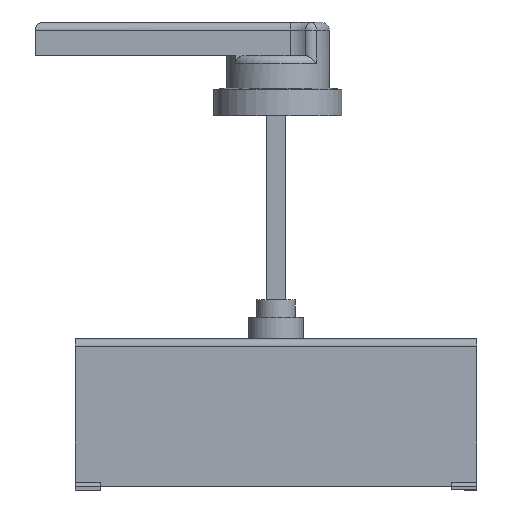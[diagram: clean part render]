
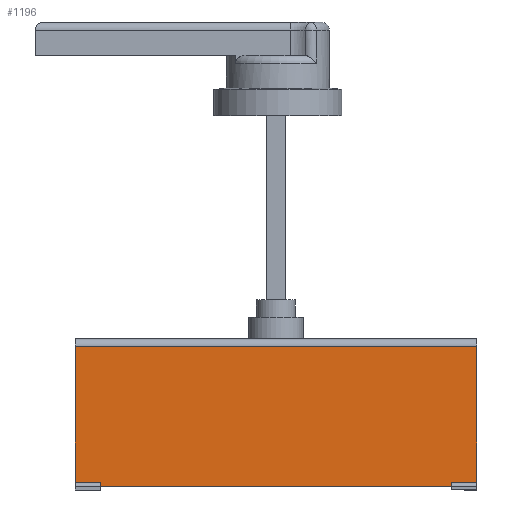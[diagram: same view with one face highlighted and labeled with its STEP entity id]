
A CAD part, front view. The second image highlights one B-rep face of the part: STEP entity #1196.
In plain terms, the highlighted planar face has unit normal (0, -1, 0).
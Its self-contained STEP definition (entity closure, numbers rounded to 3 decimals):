
#14 = VECTOR ( 'NONE', #3941, 1000. ) ;
#22 = LINE ( 'NONE', #2374, #3234 ) ;
#70 = EDGE_CURVE ( 'NONE', #397, #3723, #565, .T. ) ;
#80 = LINE ( 'NONE', #3489, #14 ) ;
#210 = LINE ( 'NONE', #4931, #4525 ) ;
#260 = DIRECTION ( 'NONE',  ( 0., 0., -1. ) ) ;
#304 = DIRECTION ( 'NONE',  ( 0., 0., 1. ) ) ;
#397 = VERTEX_POINT ( 'NONE', #4688 ) ;
#425 = VECTOR ( 'NONE', #3546, 1000. ) ;
#565 = LINE ( 'NONE', #597, #425 ) ;
#597 = CARTESIAN_POINT ( 'NONE',  ( -90.5, -108.5, 4. ) ) ;
#617 = DIRECTION ( 'NONE',  ( 1., 0., 0. ) ) ;
#647 = ORIENTED_EDGE ( 'NONE', *, *, #4529, .F. ) ;
#666 = LINE ( 'NONE', #2089, #4793 ) ;
#692 = EDGE_LOOP ( 'NONE', ( #647, #5277, #3721, #2900, #2825, #2539, #1004, #1056 ) ) ;
#829 = VERTEX_POINT ( 'NONE', #5209 ) ;
#923 = VECTOR ( 'NONE', #260, 1000. ) ;
#1004 = ORIENTED_EDGE ( 'NONE', *, *, #70, .T. ) ;
#1056 = ORIENTED_EDGE ( 'NONE', *, *, #4278, .T. ) ;
#1072 = AXIS2_PLACEMENT_3D ( 'NONE', #1599, #4502, #304 ) ;
#1081 = EDGE_CURVE ( 'NONE', #4633, #829, #4898, .T. ) ;
#1101 = CARTESIAN_POINT ( 'NONE',  ( 103.5, -108.5, 4. ) ) ;
#1196 = ADVANCED_FACE ( 'NONE', ( #1354 ), #2371, .F. ) ;
#1354 = FACE_OUTER_BOUND ( 'NONE', #692, .T. ) ;
#1452 = VERTEX_POINT ( 'NONE', #1956 ) ;
#1498 = CARTESIAN_POINT ( 'NONE',  ( 90.5, -108.5, 4. ) ) ;
#1517 = LINE ( 'NONE', #2230, #4864 ) ;
#1599 = CARTESIAN_POINT ( 'NONE',  ( -103.5, -108.5, 78. ) ) ;
#1613 = VECTOR ( 'NONE', #617, 1000. ) ;
#1956 = CARTESIAN_POINT ( 'NONE',  ( -90.5, -108.5, 2. ) ) ;
#2089 = CARTESIAN_POINT ( 'NONE',  ( 103.5, -108.5, 78. ) ) ;
#2230 = CARTESIAN_POINT ( 'NONE',  ( -90.5, -108.5, 2. ) ) ;
#2371 = PLANE ( 'NONE',  #1072 ) ;
#2374 = CARTESIAN_POINT ( 'NONE',  ( -103.5, -108.5, 2. ) ) ;
#2388 = DIRECTION ( 'NONE',  ( 0., 0., 1. ) ) ;
#2539 = ORIENTED_EDGE ( 'NONE', *, *, #4635, .T. ) ;
#2825 = ORIENTED_EDGE ( 'NONE', *, *, #5331, .T. ) ;
#2900 = ORIENTED_EDGE ( 'NONE', *, *, #4084, .F. ) ;
#2953 = DIRECTION ( 'NONE',  ( 0., 0., -1. ) ) ;
#3065 = CARTESIAN_POINT ( 'NONE',  ( 90.5, -108.5, 2. ) ) ;
#3182 = CARTESIAN_POINT ( 'NONE',  ( -103.5, -108.5, 78. ) ) ;
#3209 = CARTESIAN_POINT ( 'NONE',  ( -103.5, -108.5, 74. ) ) ;
#3221 = CARTESIAN_POINT ( 'NONE',  ( 103.5, -108.5, 74. ) ) ;
#3234 = VECTOR ( 'NONE', #3663, 1000. ) ;
#3345 = CARTESIAN_POINT ( 'NONE',  ( -90.5, -108.5, 4. ) ) ;
#3489 = CARTESIAN_POINT ( 'NONE',  ( -103.5, -108.5, 74. ) ) ;
#3546 = DIRECTION ( 'NONE',  ( 1., 0., 0. ) ) ;
#3633 = LINE ( 'NONE', #3182, #923 ) ;
#3663 = DIRECTION ( 'NONE',  ( -1., 0., 0. ) ) ;
#3721 = ORIENTED_EDGE ( 'NONE', *, *, #1081, .T. ) ;
#3723 = VERTEX_POINT ( 'NONE', #3345 ) ;
#3809 = VERTEX_POINT ( 'NONE', #3221 ) ;
#3941 = DIRECTION ( 'NONE',  ( -1., 0., 0. ) ) ;
#3977 = DIRECTION ( 'NONE',  ( 0., 0., -1. ) ) ;
#4084 = EDGE_CURVE ( 'NONE', #3809, #829, #666, .T. ) ;
#4278 = EDGE_CURVE ( 'NONE', #3723, #1452, #1517, .T. ) ;
#4502 = DIRECTION ( 'NONE',  ( 0., 1., 0. ) ) ;
#4525 = VECTOR ( 'NONE', #2388, 1000. ) ;
#4529 = EDGE_CURVE ( 'NONE', #5321, #1452, #22, .T. ) ;
#4633 = VERTEX_POINT ( 'NONE', #1498 ) ;
#4635 = EDGE_CURVE ( 'NONE', #5436, #397, #3633, .T. ) ;
#4688 = CARTESIAN_POINT ( 'NONE',  ( -103.5, -108.5, 4. ) ) ;
#4793 = VECTOR ( 'NONE', #2953, 1000. ) ;
#4864 = VECTOR ( 'NONE', #3977, 1000. ) ;
#4898 = LINE ( 'NONE', #1101, #1613 ) ;
#4931 = CARTESIAN_POINT ( 'NONE',  ( 90.5, -108.5, 2. ) ) ;
#5100 = EDGE_CURVE ( 'NONE', #5321, #4633, #210, .T. ) ;
#5209 = CARTESIAN_POINT ( 'NONE',  ( 103.5, -108.5, 4. ) ) ;
#5277 = ORIENTED_EDGE ( 'NONE', *, *, #5100, .T. ) ;
#5321 = VERTEX_POINT ( 'NONE', #3065 ) ;
#5331 = EDGE_CURVE ( 'NONE', #3809, #5436, #80, .T. ) ;
#5436 = VERTEX_POINT ( 'NONE', #3209 ) ;
